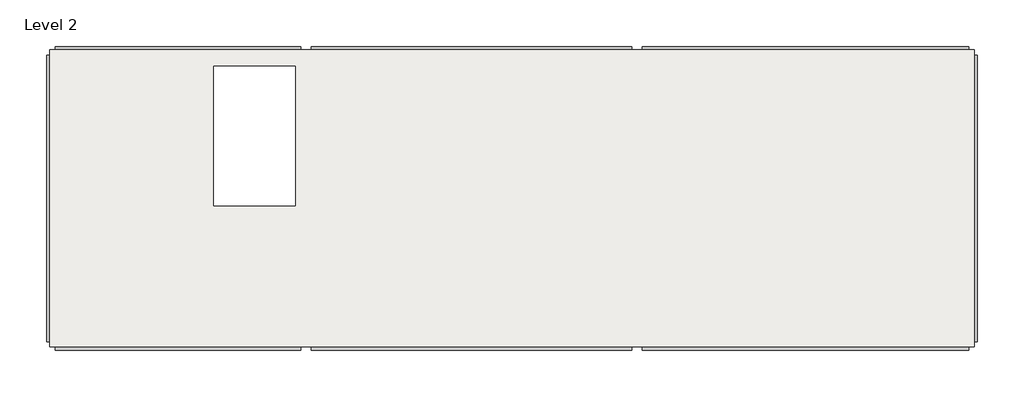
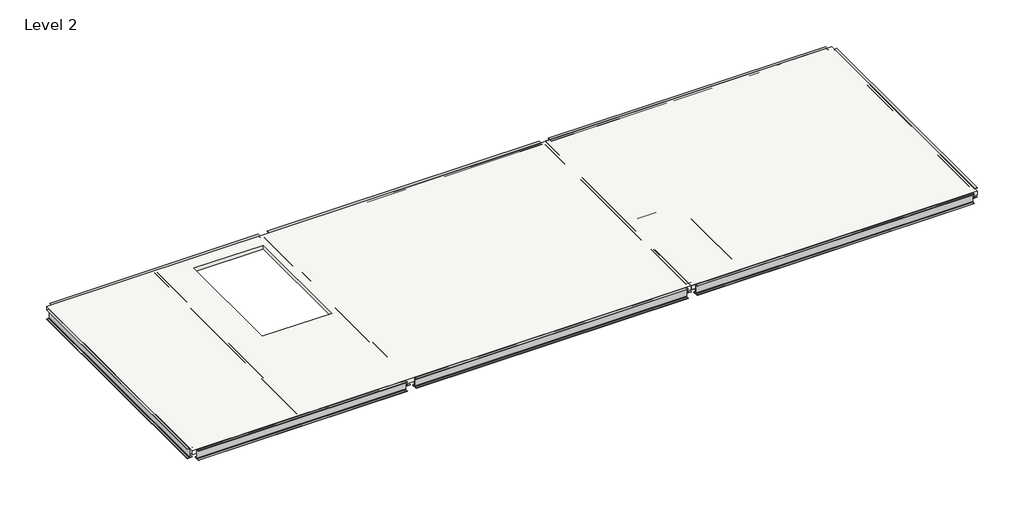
# One storey: 11 beams, 2 slabs.
"""IFC4 building model written with IfcOpenShell, lengths in millimetres."""

from ifc_helpers import new_model, si_unit, frame, origin, place, context, project, spatial, polyline, outline, extrude, transform, mapped, element, save
from components import w_wide_flange_w12x26_3f871b78, w_wide_flange_w12x26_4810f4f7, w_wide_flange_w12x26_0d1df96e, w_wide_flange_w12x26_08aea776, w_wide_flange_w12x26_b457d077

model = new_model("IFC4")

# Units and contexts
model_context = context("Model", 3, world=origin())
ifc_project = project(units=[si_unit("LENGTHUNIT", "METRE", prefix="MILLI")], contexts=[model_context])

# Site, building, storey
site = spatial("IfcSite", under=ifc_project)
building = spatial("IfcBuilding", under=site)
storey = spatial("IfcBuildingStorey", under=building, Name="Level 2", Elevation=3048.0)

# Beams
placement = place(None, origin())
w_wide_flange_w12x26_shape = w_wide_flange_w12x26_3f871b78(model_context)
element("IfcBeam", 1, ObjectType="W-Wide Flange : W12X26", at=placement, inside=storey, context=model_context, shape_type="MappedRepresentation", body=[
    mapped(w_wide_flange_w12x26_shape, transform((-18444.2117074, 20379.1714933, 2892.821875), x_axis=(1.0, 0.0, 0.0), y_axis=(0.0, 1.0, 0.0), z_axis=(0.0, 0.0, 1.0))),
])
element("IfcBeam", 2, ObjectType="W-Wide Flange : W12X26", at=placement, inside=storey, context=model_context, shape_type="MappedRepresentation", body=[
    mapped(w_wide_flange_w12x26_shape, transform((-18444.2117074, 12590.8050464, 2892.821875), x_axis=(-1.0, 0.0, 0.0), y_axis=(0.0, -1.0, 0.0), z_axis=(0.0, 0.0, 1.0))),
])
w_wide_flange_w12x26_2_shape = w_wide_flange_w12x26_4810f4f7(model_context)
element("IfcBeam", 3, ObjectType="W-Wide Flange : W12X26", at=placement, inside=storey, context=model_context, shape_type="MappedRepresentation", body=[
    mapped(w_wide_flange_w12x26_2_shape, transform((-21803.8991943, 16484.9882699, 2892.821875), x_axis=(0.0, -1.0, 0.0), y_axis=(1.0, 0.0, 0.0), z_axis=(0.0, 0.0, 1.0))),
])
element("IfcBeam", 4, ObjectType="W-Wide Flange : W12X26", at=placement, inside=storey, context=model_context, shape_type="MappedRepresentation", body=[
    mapped(w_wide_flange_w12x26_2_shape, transform((-15084.5242206, 16484.9882699, 2892.821875), x_axis=(0.0, -1.0, 0.0), y_axis=(1.0, 0.0, 0.0), z_axis=(0.0, 0.0, 1.0))),
])
element("IfcBeam", 5, ObjectType="W-Wide Flange : W12X26", at=placement, inside=storey, context=model_context, shape_type="MappedRepresentation", body=[
    mapped(w_wide_flange_w12x26_2_shape, transform((-6411.4991943, 16484.9882699, 2892.821875), x_axis=(0.0, -1.0, 0.0), y_axis=(1.0, 0.0, 0.0), z_axis=(0.0, 0.0, 1.0))),
])
element("IfcBeam", 6, ObjectType="W-Wide Flange : W12X26", at=placement, inside=storey, context=model_context, shape_type="MappedRepresentation", body=[
    mapped(w_wide_flange_w12x26_2_shape, transform((2427.7008057, 16484.9882699, 2892.821875), x_axis=(0.0, 1.0, 0.0), y_axis=(-1.0, 0.0, 0.0), z_axis=(0.0, 0.0, 1.0))),
])
w_wide_flange_w12x26_3_shape = w_wide_flange_w12x26_0d1df96e(model_context)
element("IfcBeam", 7, ObjectType="W-Wide Flange : W12X26", at=placement, inside=storey, context=model_context, shape_type="MappedRepresentation", body=[
    mapped(w_wide_flange_w12x26_3_shape, transform((-10748.0117074, 20379.1714933, 2892.821875), x_axis=(1.0, 0.0, 0.0), y_axis=(0.0, 1.0, 0.0), z_axis=(0.0, 0.0, 1.0))),
])
element("IfcBeam", 8, ObjectType="W-Wide Flange : W12X26", at=placement, inside=storey, context=model_context, shape_type="MappedRepresentation", body=[
    mapped(w_wide_flange_w12x26_3_shape, transform((-10748.0117074, 12590.8050464, 2892.821875), x_axis=(1.0, 0.0, 0.0), y_axis=(0.0, 1.0, 0.0), z_axis=(0.0, 0.0, 1.0))),
])
w_wide_flange_w12x26_4_shape = w_wide_flange_w12x26_08aea776(model_context)
element("IfcBeam", 9, ObjectType="W-Wide Flange : W12X26", at=placement, inside=storey, context=model_context, shape_type="MappedRepresentation", body=[
    mapped(w_wide_flange_w12x26_4_shape, transform((-1991.8991943, 20379.1714933, 2892.821875), x_axis=(1.0, 0.0, 0.0), y_axis=(0.0, 1.0, 0.0), z_axis=(0.0, 0.0, 1.0))),
])
element("IfcBeam", 10, ObjectType="W-Wide Flange : W12X26", at=placement, inside=storey, context=model_context, shape_type="MappedRepresentation", body=[
    mapped(w_wide_flange_w12x26_4_shape, transform((-1991.8991943, 12590.8050464, 2892.821875), x_axis=(1.0, 0.0, 0.0), y_axis=(0.0, 1.0, 0.0), z_axis=(0.0, 0.0, 1.0))),
])
w_wide_flange_w12x26_5_shape = w_wide_flange_w12x26_b457d077(model_context)
element("IfcBeam", 11, ObjectType="W-Wide Flange : W12X26", at=placement, inside=storey, context=model_context, shape_type="MappedRepresentation", body=[
    mapped(w_wide_flange_w12x26_5_shape, transform((-18444.2117074, 16484.9882699, 2892.821875), x_axis=(0.0, -1.0, 0.0), y_axis=(1.0, 0.0, 0.0), z_axis=(0.0, 0.0, 1.0))),
])

# Slabs
element("IfcSlab", 12, ObjectType="3\" LW Concrete on 2\" Metal Deck", at=placement, inside=storey, context=model_context, shape_type="SweptSolid", body=[
    extrude(outline(polyline([(2427.7008057, 20379.1714933), (2427.7008057, 12590.8050464), (-21803.8991943, 12590.8050464), (-21803.8991943, 20379.1714933), (2427.7008057, 20379.1714933)]), holes=[polyline([(-17505.2738786, 16289.165023), (-15371.6738786, 16289.165023), (-15371.6738786, 19946.765023), (-17505.2738786, 19946.765023), (-17505.2738786, 16289.165023)])]), frame((0.0, 0.0, 2921.0), z_axis=(0.0, 0.0, 1.0), x_axis=(1.0, 0.0, 0.0)), (0.0, 0.0, 1.0), 127.0),
])
element("IfcSlab", 13, ObjectType="3\" LW Concrete on 2\" Metal Deck", at=placement, inside=storey, context=model_context, shape_type="SweptSolid", body=[
    extrude(outline(polyline([(2427.7008057, 12590.8050464), (-6411.4991943, 12590.8050464), (-6411.4991943, 20379.1714933), (2427.7008057, 20379.1714933), (2427.7008057, 12590.8050464)]), holes=[polyline([(-6070.4653466, 16021.2273589), (-6070.4653466, 13125.6273589), (-4851.2653466, 13125.6273589), (-4851.2653466, 16021.2273589), (-6070.4653466, 16021.2273589)])]), frame((0.0, 0.0, 2921.0), z_axis=(0.0, 0.0, 1.0), x_axis=(1.0, 0.0, 0.0)), (0.0, 0.0, 1.0), 127.0),
])

save(model, "model.ifc")
